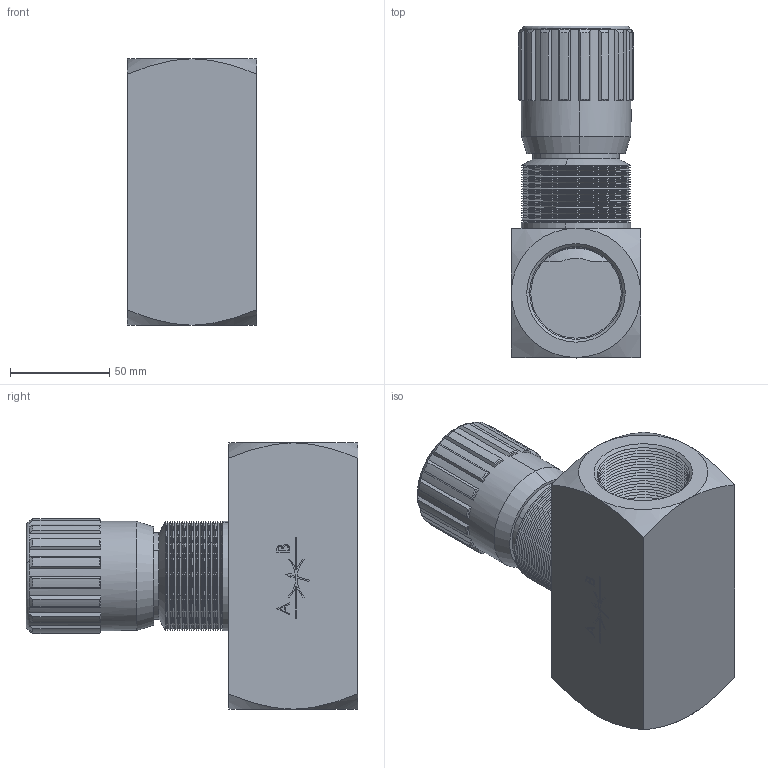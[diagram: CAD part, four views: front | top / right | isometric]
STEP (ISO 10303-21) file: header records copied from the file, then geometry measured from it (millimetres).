
FILE_DESCRIPTION (( 'STEP AP214' ), '1' );
FILE_NAME ('2257-2-112.STEP', '2015-04-11T12:25:30', ( '' ), ( '' ), 'SwSTEP 2.0', 'SolidWorks 2014', '' );
FILE_SCHEMA (( 'AUTOMOTIVE_DESIGN' ));
Length unit declared in the file: millimetre
Products named in the file (1): 2257-2-112
Bounding box: 65 x 166.8 x 134 mm (x, y, z)
Surface area: 84192.4 mm2 (no closed solid volume)
Topology: 0 solids, 33 shells, 627 faces, 2178 edges, 1546 vertices
Faces by surface type: cone 271, plane 263, cylinder 55, bspline 36, torus 2
Entity records: 34482 total; most frequent: CARTESIAN_POINT 9480, DIRECTION 3524, ORIENTED_EDGE 3502, EDGE_CURVE 2178, VERTEX_POINT 1546, LINE 1416, VECTOR 1416, AXIS2_PLACEMENT_3D 1054
